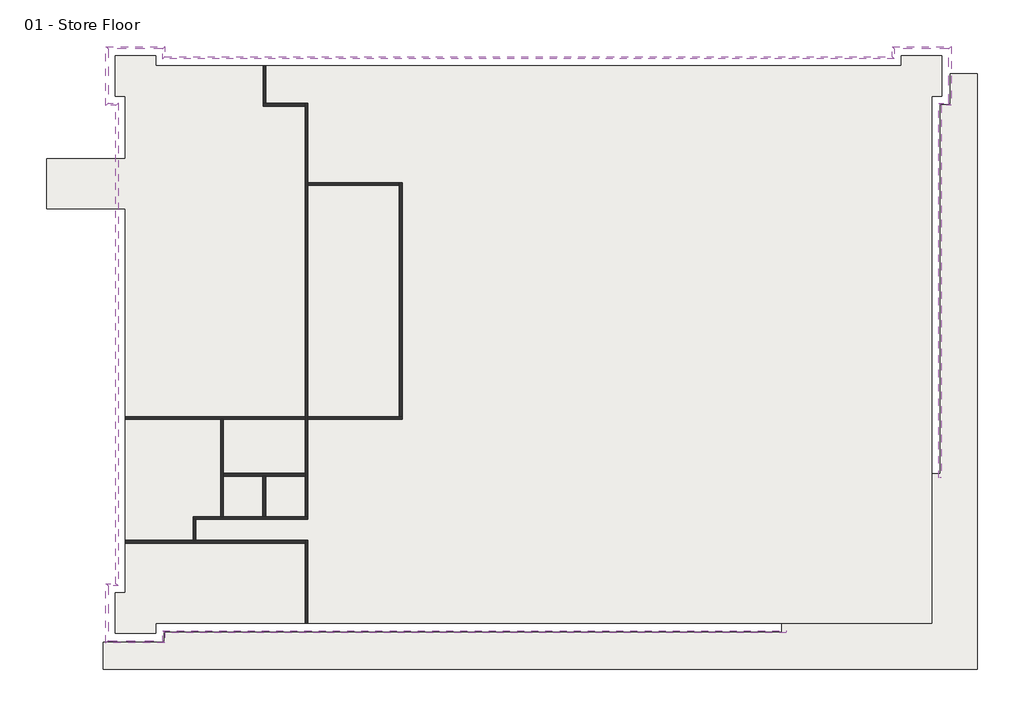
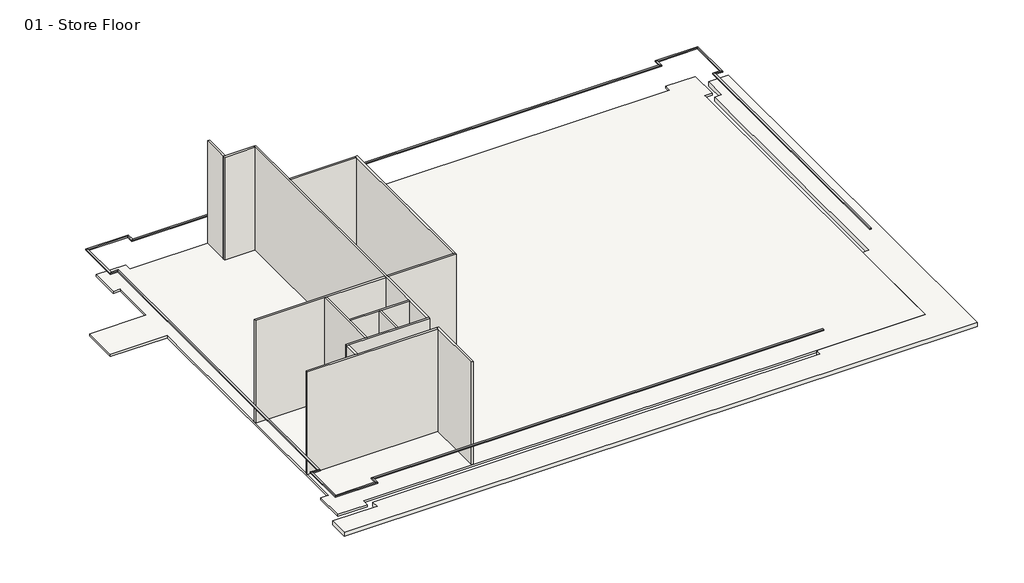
# One storey: 16 proxies, 13 walls, 2 slabs.
"""IFC4 building model written with IfcOpenShell, lengths in millimetres."""

import ifcopenshell
import ifcopenshell.guid

model = None  # the IFC model being written
_history = None  # IfcOwnerHistory: only IFC2X3 demands one
_inside = {}  # id of a spatial element -> (the spatial element, [elements in it])
_under = {}  # id of a project, library or spatial element -> (it, [spatial elements below it])
_declared = {}  # id of a project -> (the project, [libraries it declares])
_typed = {}  # id of a type object -> (the type object, [elements of that type])
_made_of = {}  # id of a material, layer set ... -> (it, [elements and type objects made of it])


def new_model(schema):
    """Start an empty IFC model of exactly this schema.

    Asked for "IFC4X3", IfcOpenShell would pick the latest addendum, in which some entities
    have other attributes; the version numbers below select the first issue.
    IFC2X3 requires an IfcOwnerHistory on every rooted entity: one is made here for all.
    """
    global model, _history
    if schema == "IFC4X3":
        model = ifcopenshell.file(schema_version=(4, 3, 0, 0))
    else:
        model = ifcopenshell.file(schema=schema)
    _inside.clear()
    _under.clear()
    _declared.clear()
    _typed.clear()
    _made_of.clear()
    _history = None
    if model.schema == "IFC2X3":
        org = make("IfcOrganization", Name="unknown")
        user = make(
            "IfcPersonAndOrganization",
            ThePerson=make("IfcPerson", FamilyName="unknown"),
            TheOrganization=org,
        )
        app = make(
            "IfcApplication",
            ApplicationDeveloper=org,
            Version="unknown",
            ApplicationFullName="unknown",
            ApplicationIdentifier="unknown",
        )
        _history = make(
            "IfcOwnerHistory",
            OwningUser=user,
            OwningApplication=app,
            ChangeAction="ADDED",
            CreationDate=0,
        )
    return model


def make(cls, **values):
    """One entity of the class cls with the attributes given. An attribute that is None is left unset."""
    return model.create_entity(
        cls, **{name: value for name, value in values.items() if value is not None}
    )


def rooted(cls, **values):
    """An entity with a GlobalId (a new one), such as an element, a storey or a relation."""
    return make(cls, GlobalId=ifcopenshell.guid.new(), OwnerHistory=_history, **values)


def si_unit(unit_type, name, prefix=None):
    """IfcSIUnit, for example si_unit("LENGTHUNIT", "METRE", prefix="MILLI")."""
    return make("IfcSIUnit", UnitType=unit_type, Prefix=prefix, Name=name)


def assignment(units):
    """IfcUnitAssignment: the units of a project."""
    return None if units is None else make("IfcUnitAssignment", Units=units)


def point(xyz):
    """IfcCartesianPoint."""
    return None if xyz is None else make("IfcCartesianPoint", Coordinates=xyz)


def direction(xyz):
    """IfcDirection."""
    return None if xyz is None else make("IfcDirection", DirectionRatios=xyz)


def frame(location, z_axis=None, x_axis=None):
    """IfcAxis2Placement3D, a coordinate frame: its origin and axes. An axis left out is left unset."""
    return make(
        "IfcAxis2Placement3D",
        Location=point(location),
        Axis=direction(z_axis),
        RefDirection=direction(x_axis),
    )


def origin():
    """The frame at (0, 0, 0) with its axes left unset."""
    return frame((0.0, 0.0, 0.0))


def origin_with_axes():
    """The frame at (0, 0, 0) with the z axis (0, 0, 1) and the x axis (1, 0, 0) written out."""
    return frame((0.0, 0.0, 0.0), z_axis=(0.0, 0.0, 1.0), x_axis=(1.0, 0.0, 0.0))


def place(relative_to, where):
    """IfcLocalPlacement: puts the frame where relative to a parent placement (None: the world)."""
    return make(
        "IfcLocalPlacement", PlacementRelTo=relative_to, RelativePlacement=where
    )


def context(
    kind, dimensions, precision=None, world=None, true_north=None, identifier=None
):
    """IfcGeometricRepresentationContext, for example the 3D "Model" context."""
    return make(
        "IfcGeometricRepresentationContext",
        ContextIdentifier=identifier,
        ContextType=kind,
        CoordinateSpaceDimension=dimensions,
        Precision=precision,
        WorldCoordinateSystem=world,
        TrueNorth=true_north,
    )


def project(units=None, contexts=None):
    """IfcProject with its units and contexts."""
    return rooted(
        "IfcProject",
        Name="project",
        RepresentationContexts=contexts,
        UnitsInContext=assignment(units),
    )


def spatial(cls, under=None, at=None, **own):
    """A site, building, storey or space (cls), placed at a placement, below another one or the project."""
    s = rooted(cls, ObjectPlacement=at, **own)
    if under is not None:
        _under.setdefault(under.id(), (under, []))[1].append(s)
    return s


def polyline(points):
    """IfcPolyline through the points."""
    return make("IfcPolyline", Points=[point(p) for p in points])


def outline(outer, holes=None, kind="AREA"):
    """IfcArbitraryClosedProfileDef: a profile drawn as a closed curve; with holes, ...WithVoids."""
    if holes is None:
        return make("IfcArbitraryClosedProfileDef", ProfileType=kind, OuterCurve=outer)
    return make(
        "IfcArbitraryProfileDefWithVoids",
        ProfileType=kind,
        OuterCurve=outer,
        InnerCurves=holes,
    )


def extrude(swept, where, along, depth):
    """IfcExtrudedAreaSolid: the profile swept, set in the frame where, extruded along a direction by depth."""
    return make(
        "IfcExtrudedAreaSolid",
        SweptArea=swept,
        Position=where,
        ExtrudedDirection=direction(along),
        Depth=depth,
    )


def faces_of(points, faces, orient=None, outer=None):
    """IfcFace entities. A face is a list of loops; a loop is a list of indices into points, from 0.

    orient and outer hold one flag for each loop. By default every Orientation is true, the
    first loop of a face is its IfcFaceOuterBound and the others are IfcFaceBound.
    """
    made = []
    for i, loops in enumerate(faces):
        bounds = []
        for j, loop in enumerate(loops):
            is_outer = j == 0 if outer is None else outer[i][j]
            bounds.append(
                make(
                    "IfcFaceOuterBound" if is_outer else "IfcFaceBound",
                    Bound=make("IfcPolyLoop", Polygon=[points[k] for k in loop]),
                    Orientation=True if orient is None else orient[i][j],
                )
            )
        made.append(make("IfcFace", Bounds=bounds))
    return made


def faceted_brep(points, faces, orient=None, outer=None, voids=None):
    """IfcFacetedBrep: a solid bounded by flat faces; with voids (closed shells), ...WithVoids."""
    shared = [point(p) for p in points]
    hull = make("IfcClosedShell", CfsFaces=faces_of(shared, faces, orient, outer))
    if voids is None:
        return make("IfcFacetedBrep", Outer=hull)
    return make(
        "IfcFacetedBrepWithVoids",
        Outer=hull,
        Voids=[
            make(cls, CfsFaces=faces_of(shared, fs, o, b)) for cls, fs, o, b in voids
        ],
    )


def shape(context_of_items, identifier, shape_type, items):
    """IfcShapeRepresentation: the items that make up one representation, for example the "Body"."""
    return make(
        "IfcShapeRepresentation",
        ContextOfItems=context_of_items,
        RepresentationIdentifier=identifier,
        RepresentationType=shape_type,
        Items=items,
    )


def made_of(thing, what):
    """Note that an element or type object is made of a material, layer set ...; save() writes the relation."""
    if what is not None:
        _made_of.setdefault(what.id(), (what, []))[1].append(thing)
    return thing


def element(
    cls,
    number,
    at=None,
    inside=None,
    cuts=None,
    type_object=None,
    material=None,
    context=None,
    identifier="Body",
    shape_type=None,
    held_by="IfcProductDefinitionShape",
    body=None,
    shapes=None,
    **own,
):
    """One element of the class cls, such as IfcWall. Its Tag is "e" and its number.

    at: its placement. inside: the storey or other place that contains it. cuts: it is an
    opening in that element (IfcRelVoidsElement). A single representation is given by context,
    identifier, shape_type and body (its items); several are given by shapes. held_by: the class
    of the entity that holds the representations. save() writes the other relations.
    """
    e = rooted(cls, Tag="e%d" % number, ObjectPlacement=at, **own)
    if body is not None:
        shapes = [shape(context, identifier, shape_type, body)]
    if shapes is not None:
        e.Representation = make(held_by, Representations=shapes)
    if inside is not None:
        _inside.setdefault(inside.id(), (inside, []))[1].append(e)
    if cuts is not None:
        rooted(
            "IfcRelVoidsElement", RelatingBuildingElement=cuts, RelatedOpeningElement=e
        )
    if type_object is not None:
        _typed.setdefault(type_object.id(), (type_object, []))[1].append(e)
    return made_of(e, material)


def aggregate(whole, parts):
    """IfcRelAggregates: a whole, such as a stair, and the parts it consists of."""
    return rooted("IfcRelAggregates", RelatingObject=whole, RelatedObjects=parts)


def save(model, path):
    """Write the relations noted so far, then the file.

    IfcRelAggregates (storeys below a building ...), IfcRelContainedInSpatialStructure (elements
    in a storey), IfcRelDefinesByType, IfcRelAssociatesMaterial and IfcRelDeclares: one each for
    every whole, place, type object, material and project.
    """
    for whole, parts in _under.values():
        aggregate(whole, parts)
    for where, things in _inside.values():
        rooted(
            "IfcRelContainedInSpatialStructure",
            RelatedElements=things,
            RelatingStructure=where,
        )
    for kind, things in _typed.values():
        rooted("IfcRelDefinesByType", RelatedObjects=things, RelatingType=kind)
    for what, things in _made_of.values():
        rooted("IfcRelAssociatesMaterial", RelatedObjects=things, RelatingMaterial=what)
    for by, libraries in _declared.values():
        rooted("IfcRelDeclares", RelatingContext=by, RelatedDefinitions=libraries)
    model.write(path)


model = new_model("IFC4")

# Units and contexts
model_context = context("Model", 3, world=origin())
ifc_project = project(units=[si_unit("LENGTHUNIT", "METRE", prefix="MILLI")], contexts=[model_context])

# Site, building, storey
site = spatial("IfcSite", under=ifc_project)
building = spatial("IfcBuilding", under=site)
storey = spatial("IfcBuildingStorey", under=building, Name="01 - Store Floor", Elevation=0.0)

# Proxies
placement = place(None, origin())
element("IfcBuildingElementProxy", 1, Name="Reveals", at=placement, inside=storey, context=model_context, shape_type="SweptSolid", body=[
    extrude(outline(polyline([(11070.0272279, -14331.9313057), (11070.0272279, -14434.4313057), (-20003.9727721, -14434.4313057), (-20106.4727721, -14331.9313057), (11070.0272279, -14331.9313057)])), frame((0.0, 0.0, 1675.0), z_axis=(0.0, 0.0, 1.0), x_axis=(1.0, 0.0, 0.0)), (0.0, 0.0, 1.0), 75.0),
])
element("IfcBuildingElementProxy", 2, Name="Reveals", at=placement, inside=storey, context=model_context, shape_type="SweptSolid", body=[
    extrude(outline(polyline([(-20106.4727721, -14331.9313057), (-20003.9727721, -14434.4313057), (-20003.9727721, -14934.2313057), (-20106.4727721, -14831.7313057), (-20106.4727721, -14331.9313057)])), frame((0.0, 0.0, 1675.0), z_axis=(0.0, 0.0, 1.0), x_axis=(1.0, 0.0, 0.0)), (0.0, 0.0, 1.0), 75.0),
])
element("IfcBuildingElementProxy", 3, Name="Reveals", at=placement, inside=storey, context=model_context, shape_type="SweptSolid", body=[
    extrude(outline(polyline([(-20106.4727721, -14831.7313057), (-20003.9727721, -14934.2313057), (-22946.9727721, -14934.2313057), (-22844.4727721, -14831.7313057), (-20106.4727721, -14831.7313057)])), frame((0.0, 0.0, 1675.0), z_axis=(0.0, 0.0, 1.0), x_axis=(1.0, 0.0, 0.0)), (0.0, 0.0, 1.0), 75.0),
])
element("IfcBuildingElementProxy", 4, Name="Reveals", at=placement, inside=storey, context=model_context, shape_type="SweptSolid", body=[
    extrude(outline(polyline([(-22844.4727721, -14831.7313057), (-22946.9727721, -14934.2313057), (-22946.9727721, -11991.2313057), (-22844.4727721, -12093.7313057), (-22844.4727721, -14831.7313057)])), frame((0.0, 0.0, 1675.0), z_axis=(0.0, 0.0, 1.0), x_axis=(1.0, 0.0, 0.0)), (0.0, 0.0, 1.0), 75.0),
])
element("IfcBuildingElementProxy", 5, Name="Reveals", at=placement, inside=storey, context=model_context, shape_type="SweptSolid", body=[
    extrude(outline(polyline([(-22844.4727721, -12093.7313057), (-22946.9727721, -11991.2313057), (-22446.9727721, -11991.2313057), (-22344.4727721, -12093.7313057), (-22844.4727721, -12093.7313057)])), frame((0.0, 0.0, 1675.0), z_axis=(0.0, 0.0, 1.0), x_axis=(1.0, 0.0, 0.0)), (0.0, 0.0, 1.0), 75.0),
])
element("IfcBuildingElementProxy", 6, Name="Reveals", at=placement, inside=storey, context=model_context, shape_type="SweptSolid", body=[
    extrude(outline(polyline([(-22344.4727721, -12093.7313057), (-22446.9727721, -11991.2313057), (-22446.9727721, 11927.5686943), (-22344.4727721, 12030.0686943), (-22344.4727721, -12093.7313057)])), frame((0.0, 0.0, 1675.0), z_axis=(0.0, 0.0, 1.0), x_axis=(1.0, 0.0, 0.0)), (0.0, 0.0, 1.0), 75.0),
])
element("IfcBuildingElementProxy", 7, Name="Reveals", at=placement, inside=storey, context=model_context, shape_type="SweptSolid", body=[
    extrude(outline(polyline([(-22344.4727721, 12030.0686943), (-22446.9727721, 11927.5686943), (-22946.9727721, 11927.5686943), (-22844.4727721, 12030.0686943), (-22344.4727721, 12030.0686943)])), frame((0.0, 0.0, 1675.0), z_axis=(0.0, 0.0, 1.0), x_axis=(1.0, 0.0, 0.0)), (0.0, 0.0, 1.0), 75.0),
])
element("IfcBuildingElementProxy", 8, Name="Reveals", at=placement, inside=storey, context=model_context, shape_type="SweptSolid", body=[
    extrude(outline(polyline([(-22844.4727721, 12030.0686943), (-22946.9727721, 11927.5686943), (-22946.9727721, 14870.5686943), (-22844.4727721, 14768.0686943), (-22844.4727721, 12030.0686943)])), frame((0.0, 0.0, 1675.0), z_axis=(0.0, 0.0, 1.0), x_axis=(1.0, 0.0, 0.0)), (0.0, 0.0, 1.0), 75.0),
])
element("IfcBuildingElementProxy", 9, Name="Reveals", at=placement, inside=storey, context=model_context, shape_type="SweptSolid", body=[
    extrude(outline(polyline([(-22844.4727721, 14768.0686943), (-22946.9727721, 14870.5686943), (-20003.9727721, 14870.5686943), (-20106.4727721, 14768.0686943), (-22844.4727721, 14768.0686943)])), frame((0.0, 0.0, 1675.0), z_axis=(0.0, 0.0, 1.0), x_axis=(1.0, 0.0, 0.0)), (0.0, 0.0, 1.0), 75.0),
])
element("IfcBuildingElementProxy", 10, Name="Reveals", at=placement, inside=storey, context=model_context, shape_type="SweptSolid", body=[
    extrude(outline(polyline([(-20106.4727721, 14768.0686943), (-20003.9727721, 14870.5686943), (-20003.9727721, 14370.5686943), (-20106.4727721, 14268.0686943), (-20106.4727721, 14768.0686943)])), frame((0.0, 0.0, 1675.0), z_axis=(0.0, 0.0, 1.0), x_axis=(1.0, 0.0, 0.0)), (0.0, 0.0, 1.0), 75.0),
])
element("IfcBuildingElementProxy", 11, Name="Reveals", at=placement, inside=storey, context=model_context, shape_type="SweptSolid", body=[
    extrude(outline(polyline([(-20106.4727721, 14268.0686943), (-20003.9727721, 14370.5686943), (16365.0272279, 14370.5686943), (16467.5272279, 14268.0686943), (-20106.4727721, 14268.0686943)])), frame((0.0, 0.0, 1675.0), z_axis=(0.0, 0.0, 1.0), x_axis=(1.0, 0.0, 0.0)), (0.0, 0.0, 1.0), 75.0),
])
element("IfcBuildingElementProxy", 12, Name="Reveals", at=placement, inside=storey, context=model_context, shape_type="SweptSolid", body=[
    extrude(outline(polyline([(16467.5272279, 14268.0686943), (16365.0272279, 14370.5686943), (16365.0272279, 14870.5686943), (16467.5272279, 14768.0686943), (16467.5272279, 14268.0686943)])), frame((0.0, 0.0, 1675.0), z_axis=(0.0, 0.0, 1.0), x_axis=(1.0, 0.0, 0.0)), (0.0, 0.0, 1.0), 75.0),
])
element("IfcBuildingElementProxy", 13, Name="Reveals", at=placement, inside=storey, context=model_context, shape_type="SweptSolid", body=[
    extrude(outline(polyline([(16467.5272279, 14768.0686943), (16365.0272279, 14870.5686943), (19308.0272279, 14870.5686943), (19205.5272279, 14768.0686943), (16467.5272279, 14768.0686943)])), frame((0.0, 0.0, 1675.0), z_axis=(0.0, 0.0, 1.0), x_axis=(1.0, 0.0, 0.0)), (0.0, 0.0, 1.0), 75.0),
])
element("IfcBuildingElementProxy", 14, Name="Reveals", at=placement, inside=storey, context=model_context, shape_type="SweptSolid", body=[
    extrude(outline(polyline([(19205.5272279, 14768.0686943), (19308.0272279, 14870.5686943), (19308.0272279, 11927.5686943), (19205.5272279, 12030.0686943), (19205.5272279, 14768.0686943)])), frame((0.0, 0.0, 1675.0), z_axis=(0.0, 0.0, 1.0), x_axis=(1.0, 0.0, 0.0)), (0.0, 0.0, 1.0), 75.0),
])
element("IfcBuildingElementProxy", 15, Name="Reveals", at=placement, inside=storey, context=model_context, shape_type="SweptSolid", body=[
    extrude(outline(polyline([(19205.5272279, 12030.0686943), (19308.0272279, 11927.5686943), (18808.0272279, 11927.5686943), (18705.5272279, 12030.0686943), (19205.5272279, 12030.0686943)])), frame((0.0, 0.0, 1675.0), z_axis=(0.0, 0.0, 1.0), x_axis=(1.0, 0.0, 0.0)), (0.0, 0.0, 1.0), 75.0),
])
element("IfcBuildingElementProxy", 16, Name="Reveals", at=placement, inside=storey, context=model_context, shape_type="SweptSolid", body=[
    extrude(outline(polyline([(18705.5272279, 12030.0686943), (18808.0272279, 11927.5686943), (18808.0272279, -6696.4313057), (18705.5272279, -6696.4313057), (18705.5272279, 12030.0686943)])), frame((0.0, 0.0, 1675.0), z_axis=(0.0, 0.0, 1.0), x_axis=(1.0, 0.0, 0.0)), (0.0, 0.0, 1.0), 75.0),
])

# Slabs
element("IfcSlab", 17, ObjectType="Generic 150mm", at=placement, inside=storey, context=model_context, shape_type="SweptSolid", body=[
    extrude(outline(polyline([(16821.5272279, 13914.0686943), (16821.5272279, 14414.0686943), (18851.5272279, 14414.0686943), (18851.5272279, 12384.0686943), (18351.5272279, 12384.0686943), (18351.5272279, -6481.9313057), (18351.5272279, -13977.9313057), (10855.5272279, -13977.9313057), (-20460.4727721, -13977.9313057), (-20460.4727721, -14477.7313057), (-22490.4727721, -14477.7313057), (-22490.4727721, -12447.7313057), (-21990.4727721, -12447.7313057), (-21990.4727721, 6772.0686943), (-25919.4727721, 6772.0686943), (-25919.4727721, 9272.0686943), (-21990.4727721, 9272.0686943), (-21990.4727721, 12384.0686943), (-22490.4727721, 12384.0686943), (-22490.4727721, 14414.0686943), (-20460.4727721, 14414.0686943), (-20460.4727721, 13914.0686943), (16821.5272279, 13914.0686943)])), frame((0.0, 0.0, -150.0), z_axis=(0.0, 0.0, 1.0), x_axis=(1.0, 0.0, 0.0)), (0.0, 0.0, 1.0), 150.0),
])
element("IfcSlab", 18, ObjectType="Generic 300mm", at=placement, inside=storey, context=model_context, shape_type="SweptSolid", body=[
    extrude(outline(polyline([(20630.5272279, -16256.9313057), (-23090.4727721, -16256.9313057), (-23090.4727721, -14906.7313057), (-20031.4727721, -14906.7313057), (-20031.4727721, -14406.9313057), (10855.5272279, -14406.9313057), (10855.5272279, -13977.9313057), (18351.5272279, -13977.9313057), (18351.5272279, -6481.9313057), (18780.5272279, -6481.9313057), (18780.5272279, 11955.0686943), (19280.5272279, 11955.0686943), (19280.5272279, 13514.0686943), (20630.5272279, 13514.0686943), (20630.5272279, -16256.9313057)])), frame((0.0, 0.0, -300.0), z_axis=(0.0, 0.0, 1.0), x_axis=(1.0, 0.0, 0.0)), (0.0, 0.0, 1.0), 300.0),
])

# Walls
element("IfcWall", 19, ObjectType="Interior - 138mm Partition (1-hr)", at=placement, inside=storey, context=model_context, shape_type="Brep", body=[
    faceted_brep([(-12850.2227721, -13977.9313057, 0.0), (-12850.2227721, -9826.1813057, 0.0), (-12850.2227721, -9826.1813057, 7500.0), (-12850.2227721, -13977.9313057, 7500.0), (-12988.7227721, -13977.9313057, 0.0), (-12988.7227721, -13977.9313057, 7500.0), (-12988.7227721, -9964.6813057, 7500.0), (-12988.7227721, -9826.1813057, 7500.0), (-12988.7227721, -9826.1813057, 0.0), (-12988.7227721, -9964.6813057, 0.0)], [[[0, 1, 2, 3]], [[4, 5, 6, 7, 8, 9]], [[1, 0, 4, 9, 8]], [[3, 2, 7, 6, 5]], [[0, 3, 5, 4]], [[2, 1, 8, 7]]]),
])
element("IfcWall", 20, ObjectType="Interior - 138mm Partition (1-hr)", at=placement, inside=storey, context=model_context, shape_type="Brep", body=[
    faceted_brep([(-12988.7227721, 12024.3186943, 0.0), (-14950.2227721, 12024.3186943, 0.0), (-15088.7227721, 12024.3186943, 0.0), (-15088.7227721, 12024.3186943, 7500.0), (-14950.2227721, 12024.3186943, 7500.0), (-12988.7227721, 12024.3186943, 7500.0), (-12988.7227721, 11885.8186943, 0.0), (-12988.7227721, 11885.8186943, 7500.0), (-15088.7227721, 11885.8186943, 7500.0), (-15088.7227721, 11885.8186943, 0.0)], [[[0, 1, 2, 3, 4, 5]], [[6, 7, 8, 9]], [[2, 1, 0, 6, 9]], [[5, 4, 3, 8, 7]], [[0, 5, 7, 6]], [[3, 2, 9, 8]]]),
])
element("IfcWall", 21, ObjectType="Interior - 138mm Partition (1-hr)", at=placement, inside=storey, context=model_context, shape_type="SweptSolid", body=[
    extrude(outline(polyline([(-14950.2227721, 13914.0686943), (-14950.2227721, 12024.3186943), (-15088.7227721, 12024.3186943), (-15088.7227721, 13914.0686943), (-14950.2227721, 13914.0686943)])), origin_with_axes(), (0.0, 0.0, 1.0), 7500.0),
])
element("IfcWall", 22, ObjectType="Interior - 138mm Partition (1-hr)", at=placement, inside=storey, context=model_context, shape_type="Brep", body=[
    faceted_brep([(-12850.2227721, -8637.6813057, 0.0), (-12988.7227721, -8637.6813057, 0.0), (-14965.5977721, -8637.6813057, 0.0), (-15104.0977721, -8637.6813057, 0.0), (-17080.9727721, -8637.6813057, 0.0), (-17219.4727721, -8637.6813057, 0.0), (-18588.7227721, -8637.6813057, 0.0), (-18588.7227721, -8637.6813057, 7500.0), (-17219.4727721, -8637.6813057, 7500.0), (-17080.9727721, -8637.6813057, 7500.0), (-15104.0977721, -8637.6813057, 7500.0), (-14965.5977721, -8637.6813057, 7500.0), (-12988.7227721, -8637.6813057, 7500.0), (-12850.2227721, -8637.6813057, 7500.0), (-12850.2227721, -8776.1813057, 0.0), (-12850.2227721, -8776.1813057, 7500.0), (-18450.2227721, -8776.1813057, 7500.0), (-18588.7227721, -8776.1813057, 7500.0), (-18588.7227721, -8776.1813057, 0.0), (-18450.2227721, -8776.1813057, 0.0)], [[[0, 1, 2, 3, 4, 5, 6, 7, 8, 9, 10, 11, 12, 13]], [[14, 15, 16, 17, 18, 19]], [[6, 5, 4, 3, 2, 1, 0, 14, 19, 18]], [[13, 12, 11, 10, 9, 8, 7, 17, 16, 15]], [[7, 6, 18, 17]], [[0, 13, 15, 14]]]),
])
element("IfcWall", 23, ObjectType="Interior - 138mm Partition (1-hr)", at=placement, inside=storey, context=model_context, shape_type="SweptSolid", body=[
    extrude(outline(polyline([(-18588.7227721, -9826.1813057), (-18588.7227721, -8776.1813057), (-18450.2227721, -8776.1813057), (-18450.2227721, -9826.1813057), (-18588.7227721, -9826.1813057)])), origin_with_axes(), (0.0, 0.0, 1.0), 7500.0),
])
element("IfcWall", 24, ObjectType="Interior - 138mm Partition (1-hr)", at=placement, inside=storey, context=model_context, shape_type="Brep", body=[
    faceted_brep([(-21990.4727721, -9964.6813057, 0.0), (-12988.7227721, -9964.6813057, 0.0), (-12988.7227721, -9964.6813057, 7500.0), (-21990.4727721, -9964.6813057, 7500.0), (-21990.4727721, -9826.1813057, 0.0), (-21990.4727721, -9826.1813057, 7500.0), (-18588.7227721, -9826.1813057, 7500.0), (-18450.2227721, -9826.1813057, 7500.0), (-12988.7227721, -9826.1813057, 7500.0), (-12988.7227721, -9826.1813057, 0.0), (-18450.2227721, -9826.1813057, 0.0), (-18588.7227721, -9826.1813057, 0.0)], [[[0, 1, 2, 3]], [[4, 5, 6, 7, 8, 9, 10, 11]], [[1, 0, 4, 11, 10, 9]], [[3, 2, 8, 7, 6, 5]], [[0, 3, 5, 4]], [[2, 1, 9, 8]]]),
])
element("IfcWall", 25, ObjectType="Interior - 138mm Partition (1-hr)", at=placement, inside=storey, context=model_context, shape_type="Brep", body=[
    faceted_brep([(-17080.9727721, -8637.6813057, 0.0), (-17080.9727721, -6606.9313057, 0.0), (-17080.9727721, -6468.4313057, 0.0), (-17080.9727721, -3776.1813057, 0.0), (-17080.9727721, -3776.1813057, 7500.0), (-17080.9727721, -6468.4313057, 7500.0), (-17080.9727721, -6606.9313057, 7500.0), (-17080.9727721, -8637.6813057, 7500.0), (-17219.4727721, -8637.6813057, 0.0), (-17219.4727721, -8637.6813057, 7500.0), (-17219.4727721, -3776.1813057, 7500.0), (-17219.4727721, -3776.1813057, 0.0)], [[[0, 1, 2, 3, 4, 5, 6, 7]], [[8, 9, 10, 11]], [[3, 2, 1, 0, 8, 11]], [[7, 6, 5, 4, 10, 9]], [[0, 7, 9, 8]], [[4, 3, 11, 10]]]),
])
element("IfcWall", 26, ObjectType="Interior - 138mm Partition (1-hr)", at=placement, inside=storey, context=model_context, shape_type="Brep", body=[
    faceted_brep([(-21990.4727721, -3637.6813057, 0.0), (-21990.4727721, -3637.6813057, 7500.0), (-12988.7227721, -3637.6813057, 7500.0), (-12988.7227721, -3637.6813057, 0.0), (-21990.4727721, -3776.1813057, 7500.0), (-21990.4727721, -3776.1813057, 0.0), (-17219.4727721, -3776.1813057, 0.0), (-17080.9727721, -3776.1813057, 0.0), (-12988.7227721, -3776.1813057, 0.0), (-12988.7227721, -3776.1813057, 7500.0), (-17080.9727721, -3776.1813057, 7500.0), (-17219.4727721, -3776.1813057, 7500.0)], [[[0, 1, 2, 3]], [[4, 5, 6, 7, 8, 9, 10, 11]], [[5, 0, 3, 8, 7, 6]], [[1, 4, 11, 10, 9, 2]], [[1, 0, 5, 4]], [[3, 2, 9, 8]]]),
    faceted_brep([(-8135.7227721, -3637.6813057, 7500.0), (-8135.7227721, -3637.6813057, 0.0), (-8274.2227721, -3637.6813057, 0.0), (-12850.2227721, -3637.6813057, 0.0), (-12850.2227721, -3637.6813057, 7500.0), (-8274.2227721, -3637.6813057, 7500.0), (-8135.7227721, -3776.1813057, 0.0), (-8135.7227721, -3776.1813057, 7500.0), (-12850.2227721, -3776.1813057, 7500.0), (-12850.2227721, -3776.1813057, 0.0)], [[[0, 1, 2, 3, 4, 5]], [[6, 7, 8, 9]], [[1, 6, 9, 3, 2]], [[7, 0, 5, 4, 8]], [[1, 0, 7, 6]], [[4, 3, 9, 8]]]),
])
element("IfcWall", 27, ObjectType="Interior - 138mm Partition (1-hr)", at=placement, inside=storey, context=model_context, shape_type="Brep", body=[
    faceted_brep([(-8135.7227721, -3637.6813057, 0.0), (-8135.7227721, 8062.3186943, 0.0), (-8135.7227721, 8062.3186943, 7500.0), (-8135.7227721, -3637.6813057, 7500.0), (-8274.2227721, -3637.6813057, 0.0), (-8274.2227721, -3637.6813057, 7500.0), (-8274.2227721, 7923.8186943, 7500.0), (-8274.2227721, 8062.3186943, 7500.0), (-8274.2227721, 8062.3186943, 0.0), (-8274.2227721, 7923.8186943, 0.0)], [[[0, 1, 2, 3]], [[4, 5, 6, 7, 8, 9]], [[1, 0, 4, 9, 8]], [[3, 2, 7, 6, 5]], [[0, 3, 5, 4]], [[2, 1, 8, 7]]]),
])
element("IfcWall", 28, ObjectType="Interior - 138mm Partition (1-hr)", at=placement, inside=storey, context=model_context, shape_type="SweptSolid", body=[
    extrude(outline(polyline([(-12850.2227721, 8062.3186943), (-8274.2227721, 8062.3186943), (-8274.2227721, 7923.8186943), (-12850.2227721, 7923.8186943), (-12850.2227721, 8062.3186943)])), origin_with_axes(), (0.0, 0.0, 1.0), 7500.0),
])
element("IfcWall", 29, ObjectType="Interior - 138mm Partition (1-hr)", at=placement, inside=storey, context=model_context, shape_type="Brep", body=[
    faceted_brep([(-12988.7227721, -6468.4313057, 0.0), (-17080.9727721, -6468.4313057, 0.0), (-17080.9727721, -6468.4313057, 7500.0), (-12988.7227721, -6468.4313057, 7500.0), (-12988.7227721, -6606.9313057, 0.0), (-12988.7227721, -6606.9313057, 7500.0), (-14965.5977721, -6606.9313057, 7500.0), (-15104.0977721, -6606.9313057, 7500.0), (-17080.9727721, -6606.9313057, 7500.0), (-17080.9727721, -6606.9313057, 0.0), (-15104.0977721, -6606.9313057, 0.0), (-14965.5977721, -6606.9313057, 0.0)], [[[0, 1, 2, 3]], [[4, 5, 6, 7, 8, 9, 10, 11]], [[1, 0, 4, 11, 10, 9]], [[3, 2, 8, 7, 6, 5]], [[0, 3, 5, 4]], [[2, 1, 9, 8]]]),
])
element("IfcWall", 30, ObjectType="Interior - 138mm Partition (1-hr)", at=placement, inside=storey, context=model_context, shape_type="SweptSolid", body=[
    extrude(outline(polyline([(-15104.0977721, -8637.6813057), (-15104.0977721, -6606.9313057), (-14965.5977721, -6606.9313057), (-14965.5977721, -8637.6813057), (-15104.0977721, -8637.6813057)])), origin_with_axes(), (0.0, 0.0, 1.0), 7500.0),
])
element("IfcWall", 31, ObjectType="Interior - 138mm Partition (1-hr)", at=placement, inside=storey, context=model_context, shape_type="Brep", body=[
    faceted_brep([(-12850.2227721, -8637.6813057, 0.0), (-12850.2227721, -3776.1813057, 0.0), (-12850.2227721, -3637.6813057, 0.0), (-12850.2227721, 7923.8186943, 0.0), (-12850.2227721, 8062.3186943, 0.0), (-12850.2227721, 12024.3186943, 0.0), (-12850.2227721, 12024.3186943, 7500.0), (-12850.2227721, 8062.3186943, 7500.0), (-12850.2227721, 7923.8186943, 7500.0), (-12850.2227721, -3637.6813057, 7500.0), (-12850.2227721, -3776.1813057, 7500.0), (-12850.2227721, -8637.6813057, 7500.0), (-12988.7227721, -8637.6813057, 0.0), (-12988.7227721, -8637.6813057, 7500.0), (-12988.7227721, -6606.9313057, 7500.0), (-12988.7227721, -6468.4313057, 7500.0), (-12988.7227721, -3776.1813057, 7500.0), (-12988.7227721, -3637.6813057, 7500.0), (-12988.7227721, 11885.8186943, 7500.0), (-12988.7227721, 12024.3186943, 7500.0), (-12988.7227721, 12024.3186943, 0.0), (-12988.7227721, 11885.8186943, 0.0), (-12988.7227721, -3637.6813057, 0.0), (-12988.7227721, -3776.1813057, 0.0), (-12988.7227721, -6468.4313057, 0.0), (-12988.7227721, -6606.9313057, 0.0)], [[[0, 1, 2, 3, 4, 5, 6, 7, 8, 9, 10, 11]], [[12, 13, 14, 15, 16, 17, 18, 19, 20, 21, 22, 23, 24, 25]], [[5, 4, 3, 2, 1, 0, 12, 25, 24, 23, 22, 21, 20]], [[11, 10, 9, 8, 7, 6, 19, 18, 17, 16, 15, 14, 13]], [[6, 5, 20, 19]], [[0, 11, 13, 12]]]),
])

save(model, "model.ifc")
